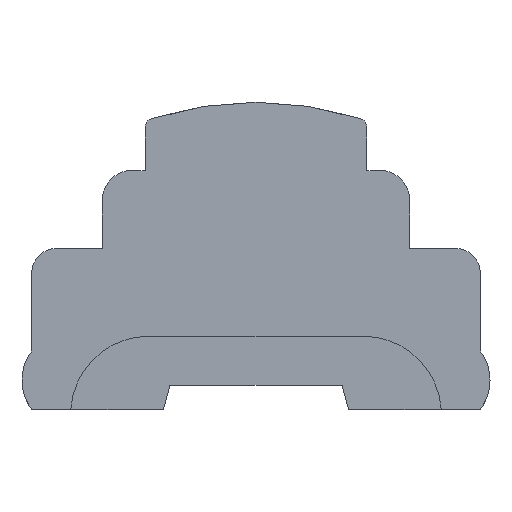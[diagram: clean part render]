
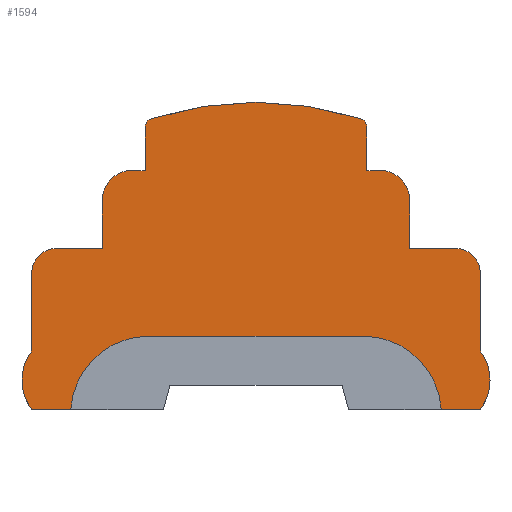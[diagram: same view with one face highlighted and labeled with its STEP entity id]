
A CAD part, top view. The second image highlights one B-rep face of the part: STEP entity #1594.
In plain terms, the highlighted planar face has unit normal (0, 0, 1).
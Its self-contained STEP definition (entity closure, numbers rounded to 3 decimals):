
#277=CARTESIAN_POINT('',(-22.031,-1.,18.25));
#278=DIRECTION('',(0.,0.,-1.));
#279=DIRECTION('',(-0.998,0.063,0.));
#280=AXIS2_PLACEMENT_3D('',#277,#278,#279);
#324=CARTESIAN_POINT('',(22.031,-1.,18.25));
#325=DIRECTION('',(0.,0.,-1.));
#326=DIRECTION('',(0.,1.,0.));
#327=AXIS2_PLACEMENT_3D('',#324,#325,#326);
#329=DIRECTION('',(-1.,0.,0.));
#330=VECTOR('',#329,8.);
#331=CARTESIAN_POINT('',(46.,0.,18.25));
#332=LINE('',#331,#330);
#333=DIRECTION('',(-1.,0.,0.));
#334=VECTOR('',#333,44.063);
#335=CARTESIAN_POINT('',(22.031,15.,18.25));
#336=LINE('',#335,#334);
#337=DIRECTION('',(-1.,0.,0.));
#338=VECTOR('',#337,8.);
#339=CARTESIAN_POINT('',(-38.,0.,18.25));
#340=LINE('',#339,#338);
#341=CARTESIAN_POINT('',(-38.,6.,18.25));
#342=DIRECTION('',(0.,0.,1.));
#343=DIRECTION('',(-0.8,0.6,0.));
#344=AXIS2_PLACEMENT_3D('',#341,#342,#343);
#346=CARTESIAN_POINT('',(-41.,28.,18.25));
#347=DIRECTION('',(0.,0.,1.));
#348=DIRECTION('',(0.,1.,0.));
#349=AXIS2_PLACEMENT_3D('',#346,#347,#348);
#351=CARTESIAN_POINT('',(-25.5,43.,18.25));
#352=DIRECTION('',(0.,0.,1.));
#353=DIRECTION('',(0.,1.,0.));
#354=AXIS2_PLACEMENT_3D('',#351,#352,#353);
#356=DIRECTION('',(0.,1.,0.));
#357=VECTOR('',#356,8.757);
#358=CARTESIAN_POINT('',(-22.75,49.,18.25));
#359=LINE('',#358,#357);
#360=CARTESIAN_POINT('',(-20.75,57.757,18.25));
#361=DIRECTION('',(0.,0.,1.));
#362=DIRECTION('',(-0.305,0.952,0.));
#363=AXIS2_PLACEMENT_3D('',#360,#361,#362);
#365=CARTESIAN_POINT('',(0.,-7.,18.25));
#366=DIRECTION('',(0.,0.,-1.));
#367=DIRECTION('',(-0.305,0.952,0.));
#368=AXIS2_PLACEMENT_3D('',#365,#366,#367);
#370=CARTESIAN_POINT('',(20.75,57.757,18.25));
#371=DIRECTION('',(0.,0.,1.));
#372=DIRECTION('',(1.,0.,0.));
#373=AXIS2_PLACEMENT_3D('',#370,#371,#372);
#375=CARTESIAN_POINT('',(25.5,43.,18.25));
#376=DIRECTION('',(0.,0.,1.));
#377=DIRECTION('',(1.,0.,0.));
#378=AXIS2_PLACEMENT_3D('',#375,#376,#377);
#380=DIRECTION('',(0.,-1.,0.));
#381=VECTOR('',#380,10.);
#382=CARTESIAN_POINT('',(31.5,43.,18.25));
#383=LINE('',#382,#381);
#384=CARTESIAN_POINT('',(41.,28.,18.25));
#385=DIRECTION('',(0.,0.,1.));
#386=DIRECTION('',(1.,0.,0.));
#387=AXIS2_PLACEMENT_3D('',#384,#385,#386);
#389=DIRECTION('',(0.,1.,0.));
#390=VECTOR('',#389,16.);
#391=CARTESIAN_POINT('',(46.,12.,18.25));
#392=LINE('',#391,#390);
#393=CARTESIAN_POINT('',(38.,6.,18.25));
#394=DIRECTION('',(0.,0.,1.));
#395=DIRECTION('',(0.8,-0.6,0.));
#396=AXIS2_PLACEMENT_3D('',#393,#394,#395);
#430=DIRECTION('',(0.,1.,0.));
#431=VECTOR('',#430,16.);
#432=CARTESIAN_POINT('',(-46.,12.,18.25));
#433=LINE('',#432,#431);
#534=DIRECTION('',(-1.,0.,0.));
#535=VECTOR('',#534,9.5);
#536=CARTESIAN_POINT('',(-31.5,33.,18.25));
#537=LINE('',#536,#535);
#542=DIRECTION('',(-1.,0.,0.));
#543=VECTOR('',#542,9.5);
#544=CARTESIAN_POINT('',(41.,33.,18.25));
#545=LINE('',#544,#543);
#678=DIRECTION('',(0.,-1.,0.));
#679=VECTOR('',#678,10.);
#680=CARTESIAN_POINT('',(-31.5,43.,18.25));
#681=LINE('',#680,#679);
#690=DIRECTION('',(-1.,0.,0.));
#691=VECTOR('',#690,2.75);
#692=CARTESIAN_POINT('',(-22.75,49.,18.25));
#693=LINE('',#692,#691);
#698=DIRECTION('',(-1.,0.,0.));
#699=VECTOR('',#698,2.75);
#700=CARTESIAN_POINT('',(25.5,49.,18.25));
#701=LINE('',#700,#699);
#752=DIRECTION('',(0.,1.,0.));
#753=VECTOR('',#752,8.757);
#754=CARTESIAN_POINT('',(22.75,49.,18.25));
#755=LINE('',#754,#753);
#1022=CARTESIAN_POINT('',(-22.75,49.,18.25));
#1024=VERTEX_POINT('',#1022);
#1025=CARTESIAN_POINT('',(22.75,49.,18.25));
#1027=VERTEX_POINT('',#1025);
#1029=CARTESIAN_POINT('',(-25.5,49.,18.25));
#1030=CARTESIAN_POINT('',(-31.5,43.,18.25));
#1031=VERTEX_POINT('',#1029);
#1032=VERTEX_POINT('',#1030);
#1041=CARTESIAN_POINT('',(31.5,43.,18.25));
#1042=VERTEX_POINT('',#1041);
#1043=CARTESIAN_POINT('',(25.5,49.,18.25));
#1044=VERTEX_POINT('',#1043);
#1045=CARTESIAN_POINT('',(-31.5,33.,18.25));
#1047=VERTEX_POINT('',#1045);
#1050=CARTESIAN_POINT('',(31.5,33.,18.25));
#1052=VERTEX_POINT('',#1050);
#1053=CARTESIAN_POINT('',(-46.,0.,18.25));
#1055=VERTEX_POINT('',#1053);
#1058=CARTESIAN_POINT('',(46.,0.,18.25));
#1060=VERTEX_POINT('',#1058);
#1065=CARTESIAN_POINT('',(-46.,12.,18.25));
#1066=VERTEX_POINT('',#1065);
#1067=CARTESIAN_POINT('',(46.,12.,18.25));
#1068=VERTEX_POINT('',#1067);
#1069=CARTESIAN_POINT('',(-41.,33.,18.25));
#1070=CARTESIAN_POINT('',(-46.,28.,18.25));
#1071=VERTEX_POINT('',#1069);
#1072=VERTEX_POINT('',#1070);
#1081=CARTESIAN_POINT('',(46.,28.,18.25));
#1082=VERTEX_POINT('',#1081);
#1083=CARTESIAN_POINT('',(41.,33.,18.25));
#1084=VERTEX_POINT('',#1083);
#1089=CARTESIAN_POINT('',(-21.36,59.661,18.25));
#1090=VERTEX_POINT('',#1089);
#1091=CARTESIAN_POINT('',(-22.75,57.757,18.25));
#1092=VERTEX_POINT('',#1091);
#1093=CARTESIAN_POINT('',(22.75,57.757,18.25));
#1094=CARTESIAN_POINT('',(21.36,59.661,18.25));
#1095=VERTEX_POINT('',#1093);
#1096=VERTEX_POINT('',#1094);
#1262=CARTESIAN_POINT('',(-22.031,15.,18.25));
#1264=VERTEX_POINT('',#1262);
#1267=CARTESIAN_POINT('',(-38.,0.,18.25));
#1268=VERTEX_POINT('',#1267);
#1270=CARTESIAN_POINT('',(38.,0.,18.25));
#1272=VERTEX_POINT('',#1270);
#1275=CARTESIAN_POINT('',(22.031,15.,18.25));
#1276=VERTEX_POINT('',#1275);
#1544=CARTESIAN_POINT('',(-22.75,0.,18.25));
#1545=DIRECTION('',(0.,0.,1.));
#1546=DIRECTION('',(1.,0.,0.));
#1547=AXIS2_PLACEMENT_3D('',#1544,#1545,#1546);
#1548=PLANE('',#1547);
#1549=ORIENTED_EDGE('',*,*,#1360,.T.);
#1550=ORIENTED_EDGE('',*,*,#1539,.F.);
#1551=ORIENTED_EDGE('',*,*,#1451,.T.);
#1552=ORIENTED_EDGE('',*,*,#1482,.F.);
#1553=ORIENTED_EDGE('',*,*,#1386,.T.);
#1555=ORIENTED_EDGE('',*,*,#1554,.F.);
#1557=ORIENTED_EDGE('',*,*,#1556,.T.);
#1559=ORIENTED_EDGE('',*,*,#1558,.F.);
#1561=ORIENTED_EDGE('',*,*,#1560,.F.);
#1563=ORIENTED_EDGE('',*,*,#1562,.F.);
#1565=ORIENTED_EDGE('',*,*,#1564,.F.);
#1567=ORIENTED_EDGE('',*,*,#1566,.F.);
#1569=ORIENTED_EDGE('',*,*,#1568,.T.);
#1571=ORIENTED_EDGE('',*,*,#1570,.F.);
#1573=ORIENTED_EDGE('',*,*,#1572,.T.);
#1575=ORIENTED_EDGE('',*,*,#1574,.F.);
#1577=ORIENTED_EDGE('',*,*,#1576,.F.);
#1579=ORIENTED_EDGE('',*,*,#1578,.F.);
#1581=ORIENTED_EDGE('',*,*,#1580,.F.);
#1583=ORIENTED_EDGE('',*,*,#1582,.T.);
#1585=ORIENTED_EDGE('',*,*,#1584,.F.);
#1587=ORIENTED_EDGE('',*,*,#1586,.F.);
#1589=ORIENTED_EDGE('',*,*,#1588,.F.);
#1591=ORIENTED_EDGE('',*,*,#1590,.F.);
#1592=EDGE_LOOP('',(#1549,#1550,#1551,#1552,#1553,#1555,#1557,#1559,#1561,#1563,
#1565,#1567,#1569,#1571,#1573,#1575,#1577,#1579,#1581,#1583,#1585,#1587,#1589,
#1591));
#1593=FACE_OUTER_BOUND('',#1592,.F.);
#281=CIRCLE('',#280,16.);
#328=CIRCLE('',#327,16.);
#345=CIRCLE('',#344,10.);
#350=CIRCLE('',#349,5.);
#355=CIRCLE('',#354,6.);
#364=CIRCLE('',#363,2.);
#369=CIRCLE('',#368,70.);
#374=CIRCLE('',#373,2.);
#379=CIRCLE('',#378,6.);
#388=CIRCLE('',#387,5.);
#397=CIRCLE('',#396,10.);
#1360=EDGE_CURVE('',#1060,#1272,#332,.T.);
#1386=EDGE_CURVE('',#1268,#1055,#340,.T.);
#1451=EDGE_CURVE('',#1276,#1264,#336,.T.);
#1482=EDGE_CURVE('',#1268,#1264,#281,.T.);
#1539=EDGE_CURVE('',#1276,#1272,#328,.T.);
#1554=EDGE_CURVE('',#1066,#1055,#345,.T.);
#1556=EDGE_CURVE('',#1066,#1072,#433,.T.);
#1558=EDGE_CURVE('',#1071,#1072,#350,.T.);
#1560=EDGE_CURVE('',#1047,#1071,#537,.T.);
#1562=EDGE_CURVE('',#1032,#1047,#681,.T.);
#1564=EDGE_CURVE('',#1031,#1032,#355,.T.);
#1566=EDGE_CURVE('',#1024,#1031,#693,.T.);
#1568=EDGE_CURVE('',#1024,#1092,#359,.T.);
#1570=EDGE_CURVE('',#1090,#1092,#364,.T.);
#1572=EDGE_CURVE('',#1090,#1096,#369,.T.);
#1574=EDGE_CURVE('',#1095,#1096,#374,.T.);
#1576=EDGE_CURVE('',#1027,#1095,#755,.T.);
#1578=EDGE_CURVE('',#1044,#1027,#701,.T.);
#1580=EDGE_CURVE('',#1042,#1044,#379,.T.);
#1582=EDGE_CURVE('',#1042,#1052,#383,.T.);
#1584=EDGE_CURVE('',#1084,#1052,#545,.T.);
#1586=EDGE_CURVE('',#1082,#1084,#388,.T.);
#1588=EDGE_CURVE('',#1068,#1082,#392,.T.);
#1590=EDGE_CURVE('',#1060,#1068,#397,.T.);
#1594=ADVANCED_FACE('',(#1593),#1548,.T.);
